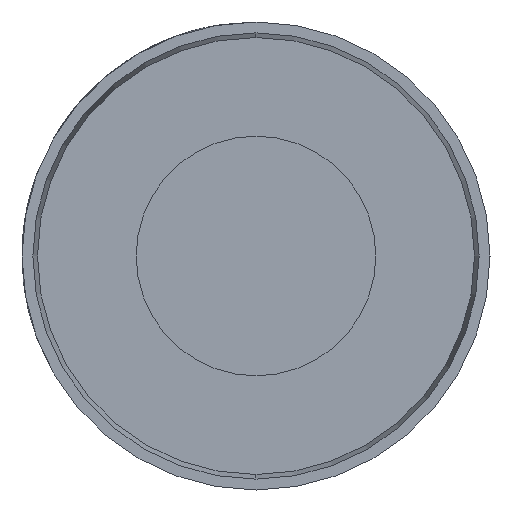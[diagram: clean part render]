
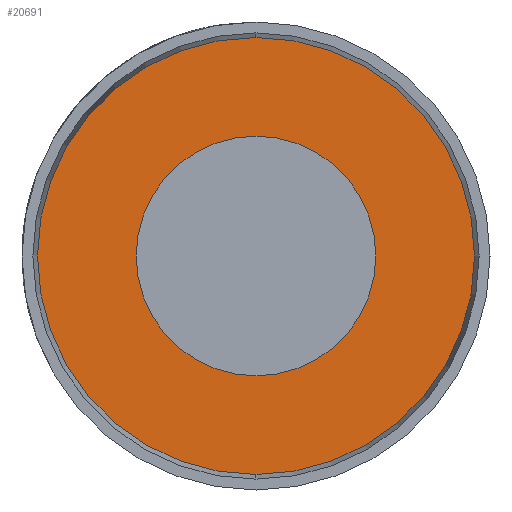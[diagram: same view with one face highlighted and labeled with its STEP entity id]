
A CAD part, left-side view. The second image highlights one B-rep face of the part: STEP entity #20691.
In plain terms, the highlighted planar face has unit normal (-1, 0, 0).
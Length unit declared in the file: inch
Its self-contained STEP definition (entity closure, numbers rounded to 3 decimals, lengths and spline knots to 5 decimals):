
#377 = DIRECTION ( 'NONE',  ( -1., 0., 0. ) ) ;
#1000 = CARTESIAN_POINT ( 'NONE',  ( 0., 0., 0. ) ) ;
#1697 = DIRECTION ( 'NONE',  ( -1., 0., 0. ) ) ;
#1880 = CARTESIAN_POINT ( 'NONE',  ( 0., 0., 0.0875 ) ) ;
#1957 = CIRCLE ( 'NONE', #5392, 0.048 ) ;
#2133 = CARTESIAN_POINT ( 'NONE',  ( 0., 0., 0. ) ) ;
#2783 = DIRECTION ( 'NONE',  ( 0., 0., 1. ) ) ;
#2880 = DIRECTION ( 'NONE',  ( -1., 0., 0. ) ) ;
#3389 = CARTESIAN_POINT ( 'NONE',  ( 0., 0., -0.048 ) ) ;
#5326 = PLANE ( 'NONE',  #12387 ) ;
#5392 = AXIS2_PLACEMENT_3D ( 'NONE', #2133, #2880, #2783 ) ;
#5394 = DIRECTION ( 'NONE',  ( 0., 0., 1. ) ) ;
#5408 = ORIENTED_EDGE ( 'NONE', *, *, #16780, .F. ) ;
#6634 = CARTESIAN_POINT ( 'NONE',  ( 0., 0., 0. ) ) ;
#6737 = CARTESIAN_POINT ( 'NONE',  ( 0., 0., 0.048 ) ) ;
#6888 = EDGE_LOOP ( 'NONE', ( #16659, #5408 ) ) ;
#7020 = DIRECTION ( 'NONE',  ( 0., 0., -1. ) ) ;
#7509 = DIRECTION ( 'NONE',  ( -1., 0., 0. ) ) ;
#8115 = DIRECTION ( 'NONE',  ( 0., 0., 1. ) ) ;
#8136 = ORIENTED_EDGE ( 'NONE', *, *, #12053, .T. ) ;
#8388 = EDGE_CURVE ( 'NONE', #15160, #8748, #12767, .T. ) ;
#8748 = VERTEX_POINT ( 'NONE', #1880 ) ;
#8899 = CARTESIAN_POINT ( 'NONE',  ( 0., 0., 0. ) ) ;
#9395 = AXIS2_PLACEMENT_3D ( 'NONE', #1000, #7509, #12345 ) ;
#9406 = AXIS2_PLACEMENT_3D ( 'NONE', #6634, #1697, #8115 ) ;
#11409 = VERTEX_POINT ( 'NONE', #6737 ) ;
#11703 = ORIENTED_EDGE ( 'NONE', *, *, #8388, .T. ) ;
#11901 = FACE_BOUND ( 'NONE', #6888, .T. ) ;
#11996 = CARTESIAN_POINT ( 'NONE',  ( 0., 0., 0. ) ) ;
#12053 = EDGE_CURVE ( 'NONE', #8748, #15160, #14529, .T. ) ;
#12345 = DIRECTION ( 'NONE',  ( 0., 0., 1. ) ) ;
#12387 = AXIS2_PLACEMENT_3D ( 'NONE', #11996, #18467, #7020 ) ;
#12767 = CIRCLE ( 'NONE', #9406, 0.0875 ) ;
#12899 = VERTEX_POINT ( 'NONE', #3389 ) ;
#13201 = CARTESIAN_POINT ( 'NONE',  ( 0., 0., -0.0875 ) ) ;
#14529 = CIRCLE ( 'NONE', #16900, 0.0875 ) ;
#14777 = CIRCLE ( 'NONE', #9395, 0.048 ) ;
#15160 = VERTEX_POINT ( 'NONE', #13201 ) ;
#15286 = EDGE_CURVE ( 'NONE', #11409, #12899, #14777, .T. ) ;
#16659 = ORIENTED_EDGE ( 'NONE', *, *, #15286, .F. ) ;
#16735 = FACE_OUTER_BOUND ( 'NONE', #20164, .T. ) ;
#16780 = EDGE_CURVE ( 'NONE', #12899, #11409, #1957, .T. ) ;
#16900 = AXIS2_PLACEMENT_3D ( 'NONE', #8899, #377, #5394 ) ;
#18467 = DIRECTION ( 'NONE',  ( 1., 0., 0. ) ) ;
#20164 = EDGE_LOOP ( 'NONE', ( #8136, #11703 ) ) ;
#20691 = ADVANCED_FACE ( 'NONE', ( #11901, #16735 ), #5326, .F. ) ;
